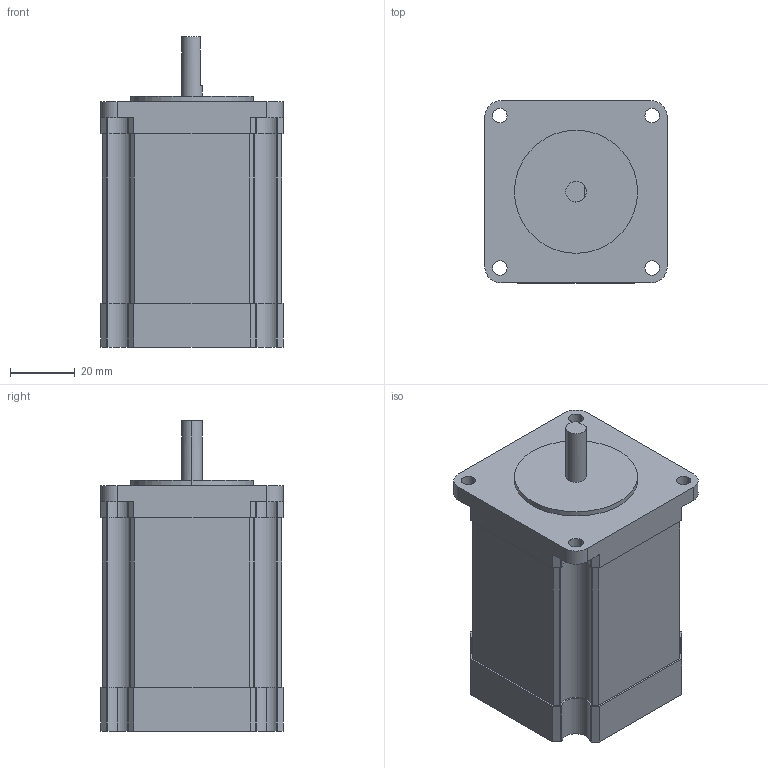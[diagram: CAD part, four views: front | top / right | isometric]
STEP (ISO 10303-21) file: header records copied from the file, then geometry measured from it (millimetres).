
FILE_DESCRIPTION (( 'STEP AP214' ), '1' );
FILE_NAME ('TS3690N3E7.STEP', '2016-09-09T01:40:21', ( 'hoho' ), ( '' ), 'SwSTEP 2.0', 'SolidWorks 2013', '' );
FILE_SCHEMA (( 'AUTOMOTIVE_DESIGN' ));
Length unit declared in the file: millimetre
Products named in the file (1): TS3690N3E7
Bounding box: 56.4 x 56.4 x 96 mm (x, y, z)
Volume: 214525.2 mm3; surface area: 23773.9 mm2
Topology: 1 solids, 1 shells, 112 faces, 318 edges, 212 vertices
Faces by surface type: cylinder 64, plane 48
Entity records: 4050 total; most frequent: DIRECTION 674, CARTESIAN_POINT 643, ORIENTED_EDGE 636, EDGE_CURVE 318, AXIS2_PLACEMENT_3D 243, VERTEX_POINT 212, LINE 188, VECTOR 188
